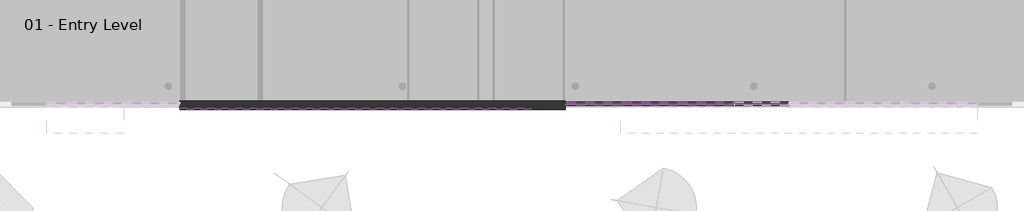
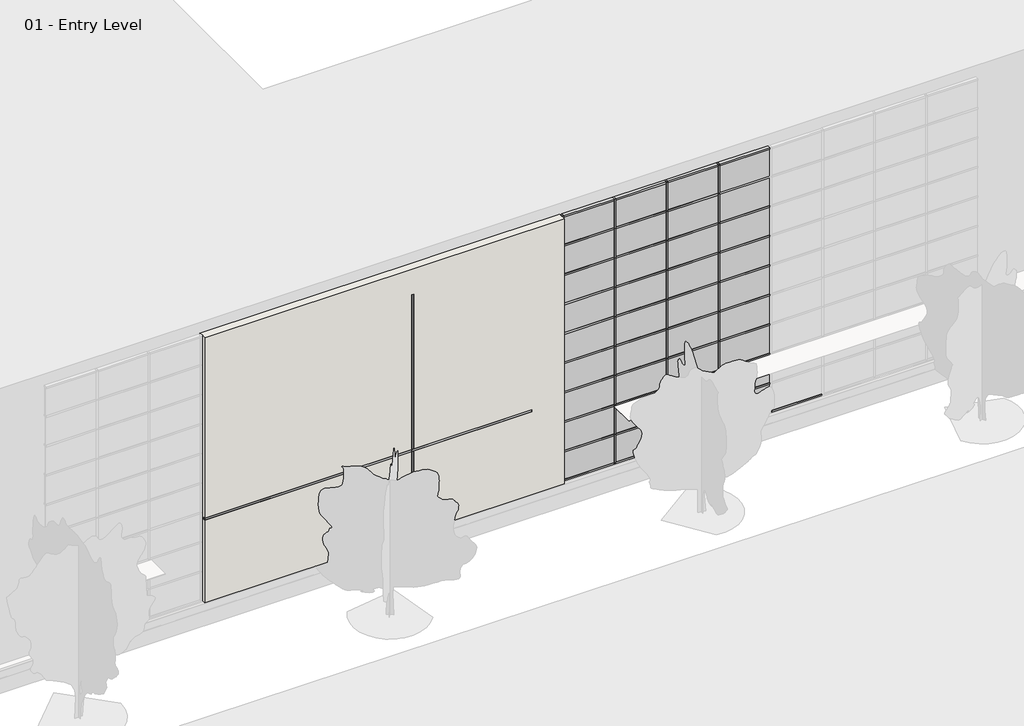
# One storey, part 2 of 35: 85 members, 36 plates, 2 proxies, 1 wall.
"""IFC4 building model written with IfcOpenShell, lengths in millimetres."""

from ifc_helpers import new_model, si_unit, frame, origin, origin_with_axes, place, context, project, spatial, polyline, outline, extrude, faceted_brep, transform, mapped, element, save
from components import member_2b49869a, member_75074519, member_391b434c, member_9e90ae50, system_panel_glazed_1b9d6098, system_panel_glazed_70da479d, system_panel_solid_b376696c, system_panel_solid_77e8b053

model = new_model("IFC4")

# Units and contexts
model_context = context("Model", 3, world=origin())
ifc_project = project(units=[si_unit("LENGTHUNIT", "METRE", prefix="MILLI")], contexts=[model_context])

# Site, building, storey
site = spatial("IfcSite", under=ifc_project)
building = spatial("IfcBuilding", under=site)
storey = spatial("IfcBuildingStorey", under=building, Name="01 - Entry Level", Elevation=0.0)

# Proxies
placement = place(None, origin())
element("IfcBuildingElementProxy", 1, Name="Reveal", ObjectType="Reveal", at=placement, inside=storey, context=model_context, shape_type="SweptSolid", body=[
    extrude(outline(polyline([(16536.3207476, -203.275), (16536.3207476, -254.075), (16460.1207476, -254.075), (16460.1207476, -203.275), (16536.3207476, -203.275)])), origin_with_axes(), (0.0, 0.0, 1.0), 9906.0),
])
element("IfcBuildingElementProxy", 2, Name="Reveal", ObjectType="Reveal", at=placement, inside=storey, context=model_context, shape_type="SweptSolid", body=[
    extrude(outline(polyline([(8357.5207476, -254.075), (8357.5207476, -203.275), (21159.1207476, -203.275), (21159.1207476, -254.075), (8357.5207476, -254.075)])), frame((0.0, 0.0, 3429.0), z_axis=(0.0, 0.0, 1.0), x_axis=(1.0, 0.0, 0.0)), (0.0, 0.0, 1.0), 76.2),
])

# Members
member_shape = member_2b49869a(model_context)
element("IfcMember", 3, ObjectType="Rectangular Mullion : 2.5\" x 5\" rectangular", at=placement, inside=storey, context=model_context, shape_type="MappedRepresentation", body=[
    mapped(member_shape, transform((22467.2207476, -47.7, 9753.6), x_axis=(1.0, 0.0, 0.0), y_axis=(0.0, -1.0, 0.0), z_axis=(0.0, 0.0, -1.0))),
])
element("IfcMember", 4, ObjectType="Rectangular Mullion : 2.5\" x 5\" rectangular", at=placement, inside=storey, context=model_context, shape_type="MappedRepresentation", body=[
    mapped(member_shape, transform((24499.2207476, -47.7, 9753.6), x_axis=(1.0, 0.0, 0.0), y_axis=(0.0, -1.0, 0.0), z_axis=(0.0, 0.0, -1.0))),
])
element("IfcMember", 5, ObjectType="Rectangular Mullion : 2.5\" x 5\" rectangular", at=placement, inside=storey, context=model_context, shape_type="MappedRepresentation", body=[
    mapped(member_shape, transform((26531.2207476, -47.7, 9753.6), x_axis=(1.0, 0.0, 0.0), y_axis=(0.0, -1.0, 0.0), z_axis=(0.0, 0.0, -1.0))),
])
element("IfcMember", 6, ObjectType="Rectangular Mullion : 2.5\" x 5\" rectangular", at=placement, inside=storey, context=model_context, shape_type="MappedRepresentation", body=[
    mapped(member_shape, transform((28563.2207476, -47.7, 9753.6), x_axis=(1.0, 0.0, 0.0), y_axis=(0.0, -1.0, 0.0), z_axis=(0.0, 0.0, -1.0))),
])
member_2_shape = member_75074519(model_context)
element("IfcMember", 7, ObjectType="Rectangular Mullion : 2.5\" x 5\" rectangular", at=placement, inside=storey, context=model_context, shape_type="MappedRepresentation", body=[
    mapped(member_2_shape, transform((22429.1207476, -47.7, 10972.8), x_axis=(-1.0, 0.0, 0.0), y_axis=(0.0, -1.0, 0.0), z_axis=(0.0, 0.0, 1.0))),
])
member_3_shape = member_391b434c(model_context)
element("IfcMember", 8, ObjectType="Rectangular Mullion : 2.5\" x 5\" rectangular", at=placement, inside=storey, context=model_context, shape_type="MappedRepresentation", body=[
    mapped(member_3_shape, transform((24467.4707476, -47.7, 10972.8), x_axis=(0.0, 0.0, 1.0), y_axis=(0.0, -1.0, 0.0), z_axis=(1.0, 0.0, 0.0))),
])
element("IfcMember", 9, ObjectType="Rectangular Mullion : 2.5\" x 5\" rectangular", at=placement, inside=storey, context=model_context, shape_type="MappedRepresentation", body=[
    mapped(member_3_shape, transform((26499.4707476, -47.7, 10972.8), x_axis=(0.0, 0.0, 1.0), y_axis=(0.0, -1.0, 0.0), z_axis=(1.0, 0.0, 0.0))),
])
element("IfcMember", 10, ObjectType="Rectangular Mullion : 2.5\" x 5\" rectangular", at=placement, inside=storey, context=model_context, shape_type="MappedRepresentation", body=[
    mapped(member_3_shape, transform((28531.4707476, -47.7, 10972.8), x_axis=(0.0, 0.0, 1.0), y_axis=(0.0, -1.0, 0.0), z_axis=(1.0, 0.0, 0.0))),
])
element("IfcMember", 11, ObjectType="Rectangular Mullion : 2.5\" x 5\" rectangular", at=placement, inside=storey, context=model_context, shape_type="MappedRepresentation", body=[
    mapped(member_3_shape, transform((30563.4707476, -47.7, 10972.8), x_axis=(0.0, 0.0, 1.0), y_axis=(0.0, -1.0, 0.0), z_axis=(1.0, 0.0, 0.0))),
])
element("IfcMember", 12, ObjectType="Rectangular Mullion : 2.5\" x 5\" rectangular", at=placement, inside=storey, context=model_context, shape_type="MappedRepresentation", body=[
    mapped(member_3_shape, transform((22498.9707476, -47.7, 0.0), x_axis=(0.0, 0.0, -1.0), y_axis=(0.0, -1.0, 0.0), z_axis=(-1.0, 0.0, 0.0))),
])
element("IfcMember", 13, ObjectType="Rectangular Mullion : 2.5\" x 5\" rectangular", at=placement, inside=storey, context=model_context, shape_type="MappedRepresentation", body=[
    mapped(member_3_shape, transform((24530.9707476, -47.7, 0.0), x_axis=(0.0, 0.0, -1.0), y_axis=(0.0, -1.0, 0.0), z_axis=(-1.0, 0.0, 0.0))),
])
element("IfcMember", 14, ObjectType="Rectangular Mullion : 2.5\" x 5\" rectangular", at=placement, inside=storey, context=model_context, shape_type="MappedRepresentation", body=[
    mapped(member_3_shape, transform((26562.9707476, -47.7, 0.0), x_axis=(0.0, 0.0, -1.0), y_axis=(0.0, -1.0, 0.0), z_axis=(-1.0, 0.0, 0.0))),
])
element("IfcMember", 15, ObjectType="Rectangular Mullion : 2.5\" x 5\" rectangular", at=placement, inside=storey, context=model_context, shape_type="MappedRepresentation", body=[
    mapped(member_3_shape, transform((28594.9707476, -47.7, 0.0), x_axis=(0.0, 0.0, -1.0), y_axis=(0.0, -1.0, 0.0), z_axis=(-1.0, 0.0, 0.0))),
])
element("IfcMember", 16, ObjectType="Rectangular Mullion : 2.5\" x 5\" rectangular", at=placement, inside=storey, context=model_context, shape_type="MappedRepresentation", body=[
    mapped(member_3_shape, transform((30626.9707476, -47.7, 0.0), x_axis=(0.0, 0.0, -1.0), y_axis=(0.0, -1.0, 0.0), z_axis=(-1.0, 0.0, 0.0))),
])
member_4_shape = member_9e90ae50(model_context)
element("IfcMember", 17, ObjectType="Rectangular Mullion : 2.5\" x 5\" rectangular", at=placement, inside=storey, context=model_context, shape_type="MappedRepresentation", body=[
    mapped(member_4_shape, transform((24467.4707476, -47.7, 1219.2), x_axis=(0.0, 0.0, 1.0), y_axis=(0.0, -1.0, 0.0), z_axis=(1.0, 0.0, 0.0))),
])
element("IfcMember", 18, ObjectType="Rectangular Mullion : 2.5\" x 5\" rectangular", at=placement, inside=storey, context=model_context, shape_type="MappedRepresentation", body=[
    mapped(member_4_shape, transform((26499.4707476, -47.7, 1219.2), x_axis=(0.0, 0.0, 1.0), y_axis=(0.0, -1.0, 0.0), z_axis=(1.0, 0.0, 0.0))),
])
element("IfcMember", 19, ObjectType="Rectangular Mullion : 2.5\" x 5\" rectangular", at=placement, inside=storey, context=model_context, shape_type="MappedRepresentation", body=[
    mapped(member_4_shape, transform((28531.4707476, -47.7, 1219.2), x_axis=(0.0, 0.0, 1.0), y_axis=(0.0, -1.0, 0.0), z_axis=(1.0, 0.0, 0.0))),
])
element("IfcMember", 20, ObjectType="Rectangular Mullion : 2.5\" x 5\" rectangular", at=placement, inside=storey, context=model_context, shape_type="MappedRepresentation", body=[
    mapped(member_4_shape, transform((30563.4707476, -47.7, 1219.2), x_axis=(0.0, 0.0, 1.0), y_axis=(0.0, -1.0, 0.0), z_axis=(1.0, 0.0, 0.0))),
])
element("IfcMember", 21, ObjectType="Rectangular Mullion : 2.5\" x 5\" rectangular", at=placement, inside=storey, context=model_context, shape_type="MappedRepresentation", body=[
    mapped(member_4_shape, transform((24467.4707476, -47.7, 2438.4), x_axis=(0.0, 0.0, 1.0), y_axis=(0.0, -1.0, 0.0), z_axis=(1.0, 0.0, 0.0))),
])
element("IfcMember", 22, ObjectType="Rectangular Mullion : 2.5\" x 5\" rectangular", at=placement, inside=storey, context=model_context, shape_type="MappedRepresentation", body=[
    mapped(member_4_shape, transform((26499.4707476, -47.7, 2438.4), x_axis=(0.0, 0.0, 1.0), y_axis=(0.0, -1.0, 0.0), z_axis=(1.0, 0.0, 0.0))),
])
element("IfcMember", 23, ObjectType="Rectangular Mullion : 2.5\" x 5\" rectangular", at=placement, inside=storey, context=model_context, shape_type="MappedRepresentation", body=[
    mapped(member_4_shape, transform((28531.4707476, -47.7, 2438.4), x_axis=(0.0, 0.0, 1.0), y_axis=(0.0, -1.0, 0.0), z_axis=(1.0, 0.0, 0.0))),
])
element("IfcMember", 24, ObjectType="Rectangular Mullion : 2.5\" x 5\" rectangular", at=placement, inside=storey, context=model_context, shape_type="MappedRepresentation", body=[
    mapped(member_4_shape, transform((30563.4707476, -47.7, 2438.4), x_axis=(0.0, 0.0, 1.0), y_axis=(0.0, -1.0, 0.0), z_axis=(1.0, 0.0, 0.0))),
])
element("IfcMember", 25, ObjectType="Rectangular Mullion : 2.5\" x 5\" rectangular", at=placement, inside=storey, context=model_context, shape_type="MappedRepresentation", body=[
    mapped(member_4_shape, transform((24467.4707476, -47.7, 3657.6), x_axis=(0.0, 0.0, 1.0), y_axis=(0.0, -1.0, 0.0), z_axis=(1.0, 0.0, 0.0))),
])
element("IfcMember", 26, ObjectType="Rectangular Mullion : 2.5\" x 5\" rectangular", at=placement, inside=storey, context=model_context, shape_type="MappedRepresentation", body=[
    mapped(member_4_shape, transform((26499.4707476, -47.7, 3657.6), x_axis=(0.0, 0.0, 1.0), y_axis=(0.0, -1.0, 0.0), z_axis=(1.0, 0.0, 0.0))),
])
element("IfcMember", 27, ObjectType="Rectangular Mullion : 2.5\" x 5\" rectangular", at=placement, inside=storey, context=model_context, shape_type="MappedRepresentation", body=[
    mapped(member_4_shape, transform((28531.4707476, -47.7, 3657.6), x_axis=(0.0, 0.0, 1.0), y_axis=(0.0, -1.0, 0.0), z_axis=(1.0, 0.0, 0.0))),
])
element("IfcMember", 28, ObjectType="Rectangular Mullion : 2.5\" x 5\" rectangular", at=placement, inside=storey, context=model_context, shape_type="MappedRepresentation", body=[
    mapped(member_4_shape, transform((30563.4707476, -47.7, 3657.6), x_axis=(0.0, 0.0, 1.0), y_axis=(0.0, -1.0, 0.0), z_axis=(1.0, 0.0, 0.0))),
])
element("IfcMember", 29, ObjectType="Rectangular Mullion : 2.5\" x 5\" rectangular", at=placement, inside=storey, context=model_context, shape_type="MappedRepresentation", body=[
    mapped(member_4_shape, transform((24467.4707476, -47.7, 4876.8), x_axis=(0.0, 0.0, 1.0), y_axis=(0.0, -1.0, 0.0), z_axis=(1.0, 0.0, 0.0))),
])
element("IfcMember", 30, ObjectType="Rectangular Mullion : 2.5\" x 5\" rectangular", at=placement, inside=storey, context=model_context, shape_type="MappedRepresentation", body=[
    mapped(member_4_shape, transform((26499.4707476, -47.7, 4876.8), x_axis=(0.0, 0.0, 1.0), y_axis=(0.0, -1.0, 0.0), z_axis=(1.0, 0.0, 0.0))),
])
element("IfcMember", 31, ObjectType="Rectangular Mullion : 2.5\" x 5\" rectangular", at=placement, inside=storey, context=model_context, shape_type="MappedRepresentation", body=[
    mapped(member_4_shape, transform((28531.4707476, -47.7, 4876.8), x_axis=(0.0, 0.0, 1.0), y_axis=(0.0, -1.0, 0.0), z_axis=(1.0, 0.0, 0.0))),
])
element("IfcMember", 32, ObjectType="Rectangular Mullion : 2.5\" x 5\" rectangular", at=placement, inside=storey, context=model_context, shape_type="MappedRepresentation", body=[
    mapped(member_4_shape, transform((30563.4707476, -47.7, 4876.8), x_axis=(0.0, 0.0, 1.0), y_axis=(0.0, -1.0, 0.0), z_axis=(1.0, 0.0, 0.0))),
])
element("IfcMember", 33, ObjectType="Rectangular Mullion : 2.5\" x 5\" rectangular", at=placement, inside=storey, context=model_context, shape_type="MappedRepresentation", body=[
    mapped(member_4_shape, transform((24467.4707476, -47.7, 6096.0), x_axis=(0.0, 0.0, 1.0), y_axis=(0.0, -1.0, 0.0), z_axis=(1.0, 0.0, 0.0))),
])
element("IfcMember", 34, ObjectType="Rectangular Mullion : 2.5\" x 5\" rectangular", at=placement, inside=storey, context=model_context, shape_type="MappedRepresentation", body=[
    mapped(member_4_shape, transform((26499.4707476, -47.7, 6096.0), x_axis=(0.0, 0.0, 1.0), y_axis=(0.0, -1.0, 0.0), z_axis=(1.0, 0.0, 0.0))),
])
element("IfcMember", 35, ObjectType="Rectangular Mullion : 2.5\" x 5\" rectangular", at=placement, inside=storey, context=model_context, shape_type="MappedRepresentation", body=[
    mapped(member_4_shape, transform((28531.4707476, -47.7, 6096.0), x_axis=(0.0, 0.0, 1.0), y_axis=(0.0, -1.0, 0.0), z_axis=(1.0, 0.0, 0.0))),
])
element("IfcMember", 36, ObjectType="Rectangular Mullion : 2.5\" x 5\" rectangular", at=placement, inside=storey, context=model_context, shape_type="MappedRepresentation", body=[
    mapped(member_4_shape, transform((30563.4707476, -47.7, 6096.0), x_axis=(0.0, 0.0, 1.0), y_axis=(0.0, -1.0, 0.0), z_axis=(1.0, 0.0, 0.0))),
])
element("IfcMember", 37, ObjectType="Rectangular Mullion : 2.5\" x 5\" rectangular", at=placement, inside=storey, context=model_context, shape_type="MappedRepresentation", body=[
    mapped(member_4_shape, transform((24467.4707476, -47.7, 7315.2), x_axis=(0.0, 0.0, 1.0), y_axis=(0.0, -1.0, 0.0), z_axis=(1.0, 0.0, 0.0))),
])
element("IfcMember", 38, ObjectType="Rectangular Mullion : 2.5\" x 5\" rectangular", at=placement, inside=storey, context=model_context, shape_type="MappedRepresentation", body=[
    mapped(member_4_shape, transform((26499.4707476, -47.7, 7315.2), x_axis=(0.0, 0.0, 1.0), y_axis=(0.0, -1.0, 0.0), z_axis=(1.0, 0.0, 0.0))),
])
element("IfcMember", 39, ObjectType="Rectangular Mullion : 2.5\" x 5\" rectangular", at=placement, inside=storey, context=model_context, shape_type="MappedRepresentation", body=[
    mapped(member_4_shape, transform((28531.4707476, -47.7, 7315.2), x_axis=(0.0, 0.0, 1.0), y_axis=(0.0, -1.0, 0.0), z_axis=(1.0, 0.0, 0.0))),
])
element("IfcMember", 40, ObjectType="Rectangular Mullion : 2.5\" x 5\" rectangular", at=placement, inside=storey, context=model_context, shape_type="MappedRepresentation", body=[
    mapped(member_4_shape, transform((30563.4707476, -47.7, 7315.2), x_axis=(0.0, 0.0, 1.0), y_axis=(0.0, -1.0, 0.0), z_axis=(1.0, 0.0, 0.0))),
])
element("IfcMember", 41, ObjectType="Rectangular Mullion : 2.5\" x 5\" rectangular", at=placement, inside=storey, context=model_context, shape_type="MappedRepresentation", body=[
    mapped(member_4_shape, transform((24467.4707476, -47.7, 8534.4), x_axis=(0.0, 0.0, 1.0), y_axis=(0.0, -1.0, 0.0), z_axis=(1.0, 0.0, 0.0))),
])
element("IfcMember", 42, ObjectType="Rectangular Mullion : 2.5\" x 5\" rectangular", at=placement, inside=storey, context=model_context, shape_type="MappedRepresentation", body=[
    mapped(member_4_shape, transform((26499.4707476, -47.7, 8534.4), x_axis=(0.0, 0.0, 1.0), y_axis=(0.0, -1.0, 0.0), z_axis=(1.0, 0.0, 0.0))),
])
element("IfcMember", 43, ObjectType="Rectangular Mullion : 2.5\" x 5\" rectangular", at=placement, inside=storey, context=model_context, shape_type="MappedRepresentation", body=[
    mapped(member_4_shape, transform((28531.4707476, -47.7, 8534.4), x_axis=(0.0, 0.0, 1.0), y_axis=(0.0, -1.0, 0.0), z_axis=(1.0, 0.0, 0.0))),
])
element("IfcMember", 44, ObjectType="Rectangular Mullion : 2.5\" x 5\" rectangular", at=placement, inside=storey, context=model_context, shape_type="MappedRepresentation", body=[
    mapped(member_4_shape, transform((30563.4707476, -47.7, 8534.4), x_axis=(0.0, 0.0, 1.0), y_axis=(0.0, -1.0, 0.0), z_axis=(1.0, 0.0, 0.0))),
])
element("IfcMember", 45, ObjectType="Rectangular Mullion : 2.5\" x 5\" rectangular", at=placement, inside=storey, context=model_context, shape_type="MappedRepresentation", body=[
    mapped(member_4_shape, transform((24467.4707476, -47.7, 9753.6), x_axis=(0.0, 0.0, 1.0), y_axis=(0.0, -1.0, 0.0), z_axis=(1.0, 0.0, 0.0))),
])
element("IfcMember", 46, ObjectType="Rectangular Mullion : 2.5\" x 5\" rectangular", at=placement, inside=storey, context=model_context, shape_type="MappedRepresentation", body=[
    mapped(member_4_shape, transform((26499.4707476, -47.7, 9753.6), x_axis=(0.0, 0.0, 1.0), y_axis=(0.0, -1.0, 0.0), z_axis=(1.0, 0.0, 0.0))),
])
element("IfcMember", 47, ObjectType="Rectangular Mullion : 2.5\" x 5\" rectangular", at=placement, inside=storey, context=model_context, shape_type="MappedRepresentation", body=[
    mapped(member_4_shape, transform((28531.4707476, -47.7, 9753.6), x_axis=(0.0, 0.0, 1.0), y_axis=(0.0, -1.0, 0.0), z_axis=(1.0, 0.0, 0.0))),
])
element("IfcMember", 48, ObjectType="Rectangular Mullion : 2.5\" x 5\" rectangular", at=placement, inside=storey, context=model_context, shape_type="MappedRepresentation", body=[
    mapped(member_shape, transform((22467.2207476, -47.7, 0.0), x_axis=(1.0, 0.0, 0.0), y_axis=(0.0, -1.0, 0.0), z_axis=(0.0, 0.0, -1.0))),
])
element("IfcMember", 49, ObjectType="Rectangular Mullion : 2.5\" x 5\" rectangular", at=placement, inside=storey, context=model_context, shape_type="MappedRepresentation", body=[
    mapped(member_shape, transform((24499.2207476, -47.7, 0.0), x_axis=(1.0, 0.0, 0.0), y_axis=(0.0, -1.0, 0.0), z_axis=(0.0, 0.0, -1.0))),
])
element("IfcMember", 50, ObjectType="Rectangular Mullion : 2.5\" x 5\" rectangular", at=placement, inside=storey, context=model_context, shape_type="MappedRepresentation", body=[
    mapped(member_shape, transform((26531.2207476, -47.7, 0.0), x_axis=(1.0, 0.0, 0.0), y_axis=(0.0, -1.0, 0.0), z_axis=(0.0, 0.0, -1.0))),
])
element("IfcMember", 51, ObjectType="Rectangular Mullion : 2.5\" x 5\" rectangular", at=placement, inside=storey, context=model_context, shape_type="MappedRepresentation", body=[
    mapped(member_shape, transform((28563.2207476, -47.7, 0.0), x_axis=(1.0, 0.0, 0.0), y_axis=(0.0, -1.0, 0.0), z_axis=(0.0, 0.0, -1.0))),
])
element("IfcMember", 52, ObjectType="Rectangular Mullion : 2.5\" x 5\" rectangular", at=placement, inside=storey, context=model_context, shape_type="MappedRepresentation", body=[
    mapped(member_shape, transform((22467.2207476, -47.7, 1219.2), x_axis=(1.0, 0.0, 0.0), y_axis=(0.0, -1.0, 0.0), z_axis=(0.0, 0.0, -1.0))),
])
element("IfcMember", 53, ObjectType="Rectangular Mullion : 2.5\" x 5\" rectangular", at=placement, inside=storey, context=model_context, shape_type="MappedRepresentation", body=[
    mapped(member_shape, transform((24499.2207476, -47.7, 1219.2), x_axis=(1.0, 0.0, 0.0), y_axis=(0.0, -1.0, 0.0), z_axis=(0.0, 0.0, -1.0))),
])
element("IfcMember", 54, ObjectType="Rectangular Mullion : 2.5\" x 5\" rectangular", at=placement, inside=storey, context=model_context, shape_type="MappedRepresentation", body=[
    mapped(member_shape, transform((26531.2207476, -47.7, 1219.2), x_axis=(1.0, 0.0, 0.0), y_axis=(0.0, -1.0, 0.0), z_axis=(0.0, 0.0, -1.0))),
])
element("IfcMember", 55, ObjectType="Rectangular Mullion : 2.5\" x 5\" rectangular", at=placement, inside=storey, context=model_context, shape_type="MappedRepresentation", body=[
    mapped(member_shape, transform((28563.2207476, -47.7, 1219.2), x_axis=(1.0, 0.0, 0.0), y_axis=(0.0, -1.0, 0.0), z_axis=(0.0, 0.0, -1.0))),
])
element("IfcMember", 56, ObjectType="Rectangular Mullion : 2.5\" x 5\" rectangular", at=placement, inside=storey, context=model_context, shape_type="MappedRepresentation", body=[
    mapped(member_shape, transform((22467.2207476, -47.7, 2438.4), x_axis=(1.0, 0.0, 0.0), y_axis=(0.0, -1.0, 0.0), z_axis=(0.0, 0.0, -1.0))),
])
element("IfcMember", 57, ObjectType="Rectangular Mullion : 2.5\" x 5\" rectangular", at=placement, inside=storey, context=model_context, shape_type="MappedRepresentation", body=[
    mapped(member_shape, transform((24499.2207476, -47.7, 2438.4), x_axis=(1.0, 0.0, 0.0), y_axis=(0.0, -1.0, 0.0), z_axis=(0.0, 0.0, -1.0))),
])
element("IfcMember", 58, ObjectType="Rectangular Mullion : 2.5\" x 5\" rectangular", at=placement, inside=storey, context=model_context, shape_type="MappedRepresentation", body=[
    mapped(member_shape, transform((26531.2207476, -47.7, 2438.4), x_axis=(1.0, 0.0, 0.0), y_axis=(0.0, -1.0, 0.0), z_axis=(0.0, 0.0, -1.0))),
])
element("IfcMember", 59, ObjectType="Rectangular Mullion : 2.5\" x 5\" rectangular", at=placement, inside=storey, context=model_context, shape_type="MappedRepresentation", body=[
    mapped(member_shape, transform((28563.2207476, -47.7, 2438.4), x_axis=(1.0, 0.0, 0.0), y_axis=(0.0, -1.0, 0.0), z_axis=(0.0, 0.0, -1.0))),
])
element("IfcMember", 60, ObjectType="Rectangular Mullion : 2.5\" x 5\" rectangular", at=placement, inside=storey, context=model_context, shape_type="MappedRepresentation", body=[
    mapped(member_shape, transform((22467.2207476, -47.7, 3657.6), x_axis=(1.0, 0.0, 0.0), y_axis=(0.0, -1.0, 0.0), z_axis=(0.0, 0.0, -1.0))),
])
element("IfcMember", 61, ObjectType="Rectangular Mullion : 2.5\" x 5\" rectangular", at=placement, inside=storey, context=model_context, shape_type="MappedRepresentation", body=[
    mapped(member_shape, transform((24499.2207476, -47.7, 3657.6), x_axis=(1.0, 0.0, 0.0), y_axis=(0.0, -1.0, 0.0), z_axis=(0.0, 0.0, -1.0))),
])
element("IfcMember", 62, ObjectType="Rectangular Mullion : 2.5\" x 5\" rectangular", at=placement, inside=storey, context=model_context, shape_type="MappedRepresentation", body=[
    mapped(member_shape, transform((26531.2207476, -47.7, 3657.6), x_axis=(1.0, 0.0, 0.0), y_axis=(0.0, -1.0, 0.0), z_axis=(0.0, 0.0, -1.0))),
])
element("IfcMember", 63, ObjectType="Rectangular Mullion : 2.5\" x 5\" rectangular", at=placement, inside=storey, context=model_context, shape_type="MappedRepresentation", body=[
    mapped(member_shape, transform((28563.2207476, -47.7, 3657.6), x_axis=(1.0, 0.0, 0.0), y_axis=(0.0, -1.0, 0.0), z_axis=(0.0, 0.0, -1.0))),
])
element("IfcMember", 64, ObjectType="Rectangular Mullion : 2.5\" x 5\" rectangular", at=placement, inside=storey, context=model_context, shape_type="MappedRepresentation", body=[
    mapped(member_shape, transform((22467.2207476, -47.7, 4876.8), x_axis=(1.0, 0.0, 0.0), y_axis=(0.0, -1.0, 0.0), z_axis=(0.0, 0.0, -1.0))),
])
element("IfcMember", 65, ObjectType="Rectangular Mullion : 2.5\" x 5\" rectangular", at=placement, inside=storey, context=model_context, shape_type="MappedRepresentation", body=[
    mapped(member_shape, transform((24499.2207476, -47.7, 4876.8), x_axis=(1.0, 0.0, 0.0), y_axis=(0.0, -1.0, 0.0), z_axis=(0.0, 0.0, -1.0))),
])
element("IfcMember", 66, ObjectType="Rectangular Mullion : 2.5\" x 5\" rectangular", at=placement, inside=storey, context=model_context, shape_type="MappedRepresentation", body=[
    mapped(member_shape, transform((26531.2207476, -47.7, 4876.8), x_axis=(1.0, 0.0, 0.0), y_axis=(0.0, -1.0, 0.0), z_axis=(0.0, 0.0, -1.0))),
])
element("IfcMember", 67, ObjectType="Rectangular Mullion : 2.5\" x 5\" rectangular", at=placement, inside=storey, context=model_context, shape_type="MappedRepresentation", body=[
    mapped(member_shape, transform((28563.2207476, -47.7, 4876.8), x_axis=(1.0, 0.0, 0.0), y_axis=(0.0, -1.0, 0.0), z_axis=(0.0, 0.0, -1.0))),
])
element("IfcMember", 68, ObjectType="Rectangular Mullion : 2.5\" x 5\" rectangular", at=placement, inside=storey, context=model_context, shape_type="MappedRepresentation", body=[
    mapped(member_shape, transform((22467.2207476, -47.7, 6096.0), x_axis=(1.0, 0.0, 0.0), y_axis=(0.0, -1.0, 0.0), z_axis=(0.0, 0.0, -1.0))),
])
element("IfcMember", 69, ObjectType="Rectangular Mullion : 2.5\" x 5\" rectangular", at=placement, inside=storey, context=model_context, shape_type="MappedRepresentation", body=[
    mapped(member_shape, transform((24499.2207476, -47.7, 6096.0), x_axis=(1.0, 0.0, 0.0), y_axis=(0.0, -1.0, 0.0), z_axis=(0.0, 0.0, -1.0))),
])
element("IfcMember", 70, ObjectType="Rectangular Mullion : 2.5\" x 5\" rectangular", at=placement, inside=storey, context=model_context, shape_type="MappedRepresentation", body=[
    mapped(member_shape, transform((26531.2207476, -47.7, 6096.0), x_axis=(1.0, 0.0, 0.0), y_axis=(0.0, -1.0, 0.0), z_axis=(0.0, 0.0, -1.0))),
])
element("IfcMember", 71, ObjectType="Rectangular Mullion : 2.5\" x 5\" rectangular", at=placement, inside=storey, context=model_context, shape_type="MappedRepresentation", body=[
    mapped(member_shape, transform((28563.2207476, -47.7, 6096.0), x_axis=(1.0, 0.0, 0.0), y_axis=(0.0, -1.0, 0.0), z_axis=(0.0, 0.0, -1.0))),
])
element("IfcMember", 72, ObjectType="Rectangular Mullion : 2.5\" x 5\" rectangular", at=placement, inside=storey, context=model_context, shape_type="MappedRepresentation", body=[
    mapped(member_shape, transform((22467.2207476, -47.7, 7315.2), x_axis=(1.0, 0.0, 0.0), y_axis=(0.0, -1.0, 0.0), z_axis=(0.0, 0.0, -1.0))),
])
element("IfcMember", 73, ObjectType="Rectangular Mullion : 2.5\" x 5\" rectangular", at=placement, inside=storey, context=model_context, shape_type="MappedRepresentation", body=[
    mapped(member_shape, transform((24499.2207476, -47.7, 7315.2), x_axis=(1.0, 0.0, 0.0), y_axis=(0.0, -1.0, 0.0), z_axis=(0.0, 0.0, -1.0))),
])
element("IfcMember", 74, ObjectType="Rectangular Mullion : 2.5\" x 5\" rectangular", at=placement, inside=storey, context=model_context, shape_type="MappedRepresentation", body=[
    mapped(member_shape, transform((26531.2207476, -47.7, 7315.2), x_axis=(1.0, 0.0, 0.0), y_axis=(0.0, -1.0, 0.0), z_axis=(0.0, 0.0, -1.0))),
])
element("IfcMember", 75, ObjectType="Rectangular Mullion : 2.5\" x 5\" rectangular", at=placement, inside=storey, context=model_context, shape_type="MappedRepresentation", body=[
    mapped(member_shape, transform((28563.2207476, -47.7, 7315.2), x_axis=(1.0, 0.0, 0.0), y_axis=(0.0, -1.0, 0.0), z_axis=(0.0, 0.0, -1.0))),
])
element("IfcMember", 76, ObjectType="Rectangular Mullion : 2.5\" x 5\" rectangular", at=placement, inside=storey, context=model_context, shape_type="MappedRepresentation", body=[
    mapped(member_shape, transform((22467.2207476, -47.7, 8534.4), x_axis=(1.0, 0.0, 0.0), y_axis=(0.0, -1.0, 0.0), z_axis=(0.0, 0.0, -1.0))),
])
element("IfcMember", 77, ObjectType="Rectangular Mullion : 2.5\" x 5\" rectangular", at=placement, inside=storey, context=model_context, shape_type="MappedRepresentation", body=[
    mapped(member_shape, transform((24499.2207476, -47.7, 8534.4), x_axis=(1.0, 0.0, 0.0), y_axis=(0.0, -1.0, 0.0), z_axis=(0.0, 0.0, -1.0))),
])
element("IfcMember", 78, ObjectType="Rectangular Mullion : 2.5\" x 5\" rectangular", at=placement, inside=storey, context=model_context, shape_type="MappedRepresentation", body=[
    mapped(member_shape, transform((26531.2207476, -47.7, 8534.4), x_axis=(1.0, 0.0, 0.0), y_axis=(0.0, -1.0, 0.0), z_axis=(0.0, 0.0, -1.0))),
])
element("IfcMember", 79, ObjectType="Rectangular Mullion : 2.5\" x 5\" rectangular", at=placement, inside=storey, context=model_context, shape_type="MappedRepresentation", body=[
    mapped(member_shape, transform((28563.2207476, -47.7, 8534.4), x_axis=(1.0, 0.0, 0.0), y_axis=(0.0, -1.0, 0.0), z_axis=(0.0, 0.0, -1.0))),
])
element("IfcMember", 80, ObjectType="Rectangular Mullion : 2.5\" x 5\" rectangular", at=placement, inside=storey, context=model_context, shape_type="MappedRepresentation", body=[
    mapped(member_2_shape, transform((22429.1207476, -47.7, 1219.2), x_axis=(-1.0, 0.0, 0.0), y_axis=(0.0, -1.0, 0.0), z_axis=(0.0, 0.0, 1.0))),
])
element("IfcMember", 81, ObjectType="Rectangular Mullion : 2.5\" x 5\" rectangular", at=placement, inside=storey, context=model_context, shape_type="MappedRepresentation", body=[
    mapped(member_2_shape, transform((22429.1207476, -47.7, 2438.4), x_axis=(-1.0, 0.0, 0.0), y_axis=(0.0, -1.0, 0.0), z_axis=(0.0, 0.0, 1.0))),
])
element("IfcMember", 82, ObjectType="Rectangular Mullion : 2.5\" x 5\" rectangular", at=placement, inside=storey, context=model_context, shape_type="MappedRepresentation", body=[
    mapped(member_2_shape, transform((22429.1207476, -47.7, 3657.6), x_axis=(-1.0, 0.0, 0.0), y_axis=(0.0, -1.0, 0.0), z_axis=(0.0, 0.0, 1.0))),
])
element("IfcMember", 83, ObjectType="Rectangular Mullion : 2.5\" x 5\" rectangular", at=placement, inside=storey, context=model_context, shape_type="MappedRepresentation", body=[
    mapped(member_2_shape, transform((22429.1207476, -47.7, 4876.8), x_axis=(-1.0, 0.0, 0.0), y_axis=(0.0, -1.0, 0.0), z_axis=(0.0, 0.0, 1.0))),
])
element("IfcMember", 84, ObjectType="Rectangular Mullion : 2.5\" x 5\" rectangular", at=placement, inside=storey, context=model_context, shape_type="MappedRepresentation", body=[
    mapped(member_2_shape, transform((22429.1207476, -47.7, 6096.0), x_axis=(-1.0, 0.0, 0.0), y_axis=(0.0, -1.0, 0.0), z_axis=(0.0, 0.0, 1.0))),
])
element("IfcMember", 85, ObjectType="Rectangular Mullion : 2.5\" x 5\" rectangular", at=placement, inside=storey, context=model_context, shape_type="MappedRepresentation", body=[
    mapped(member_2_shape, transform((22429.1207476, -47.7, 7315.2), x_axis=(-1.0, 0.0, 0.0), y_axis=(0.0, -1.0, 0.0), z_axis=(0.0, 0.0, 1.0))),
])
element("IfcMember", 86, ObjectType="Rectangular Mullion : 2.5\" x 5\" rectangular", at=placement, inside=storey, context=model_context, shape_type="MappedRepresentation", body=[
    mapped(member_2_shape, transform((22429.1207476, -47.7, 8534.4), x_axis=(-1.0, 0.0, 0.0), y_axis=(0.0, -1.0, 0.0), z_axis=(0.0, 0.0, 1.0))),
])
element("IfcMember", 87, ObjectType="Rectangular Mullion : 2.5\" x 5\" rectangular", at=placement, inside=storey, context=model_context, shape_type="MappedRepresentation", body=[
    mapped(member_2_shape, transform((22429.1207476, -47.7, 9753.6), x_axis=(-1.0, 0.0, 0.0), y_axis=(0.0, -1.0, 0.0), z_axis=(0.0, 0.0, 1.0))),
])

# Plates
system_panel_glazed_shape = system_panel_glazed_1b9d6098(model_context)
element("IfcPlate", 88, ObjectType="System Panel : Glazed", at=placement, inside=storey, context=model_context, shape_type="MappedRepresentation", body=[
    mapped(system_panel_glazed_shape, transform((23483.2207476, -47.7, 63.5), x_axis=(1.0, 0.0, 0.0), y_axis=(0.0, 1.0, 0.0), z_axis=(0.0, 0.0, 1.0))),
])
element("IfcPlate", 89, ObjectType="System Panel : Glazed", at=placement, inside=storey, context=model_context, shape_type="MappedRepresentation", body=[
    mapped(system_panel_glazed_shape, transform((25515.2207476, -47.7, 63.5), x_axis=(1.0, 0.0, 0.0), y_axis=(0.0, 1.0, 0.0), z_axis=(0.0, 0.0, 1.0))),
])
element("IfcPlate", 90, ObjectType="System Panel : Glazed", at=placement, inside=storey, context=model_context, shape_type="MappedRepresentation", body=[
    mapped(system_panel_glazed_shape, transform((27547.2207476, -47.7, 63.5), x_axis=(1.0, 0.0, 0.0), y_axis=(0.0, 1.0, 0.0), z_axis=(0.0, 0.0, 1.0))),
])
element("IfcPlate", 91, ObjectType="System Panel : Glazed", at=placement, inside=storey, context=model_context, shape_type="MappedRepresentation", body=[
    mapped(system_panel_glazed_shape, transform((29579.2207476, -47.7, 63.5), x_axis=(1.0, 0.0, 0.0), y_axis=(0.0, 1.0, 0.0), z_axis=(0.0, 0.0, 1.0))),
])
system_panel_glazed_2_shape = system_panel_glazed_70da479d(model_context)
element("IfcPlate", 92, ObjectType="System Panel : Glazed", at=placement, inside=storey, context=model_context, shape_type="MappedRepresentation", body=[
    mapped(system_panel_glazed_2_shape, transform((23483.2207476, -47.7, 1250.95), x_axis=(1.0, 0.0, 0.0), y_axis=(0.0, 1.0, 0.0), z_axis=(0.0, 0.0, 1.0))),
])
element("IfcPlate", 93, ObjectType="System Panel : Glazed", at=placement, inside=storey, context=model_context, shape_type="MappedRepresentation", body=[
    mapped(system_panel_glazed_2_shape, transform((25515.2207476, -47.7, 1250.95), x_axis=(1.0, 0.0, 0.0), y_axis=(0.0, 1.0, 0.0), z_axis=(0.0, 0.0, 1.0))),
])
element("IfcPlate", 94, ObjectType="System Panel : Glazed", at=placement, inside=storey, context=model_context, shape_type="MappedRepresentation", body=[
    mapped(system_panel_glazed_2_shape, transform((27547.2207476, -47.7, 1250.95), x_axis=(1.0, 0.0, 0.0), y_axis=(0.0, 1.0, 0.0), z_axis=(0.0, 0.0, 1.0))),
])
element("IfcPlate", 95, ObjectType="System Panel : Glazed", at=placement, inside=storey, context=model_context, shape_type="MappedRepresentation", body=[
    mapped(system_panel_glazed_2_shape, transform((29579.2207476, -47.7, 1250.95), x_axis=(1.0, 0.0, 0.0), y_axis=(0.0, 1.0, 0.0), z_axis=(0.0, 0.0, 1.0))),
])
element("IfcPlate", 96, ObjectType="System Panel : Glazed", at=placement, inside=storey, context=model_context, shape_type="MappedRepresentation", body=[
    mapped(system_panel_glazed_2_shape, transform((23483.2207476, -47.7, 3689.35), x_axis=(1.0, 0.0, 0.0), y_axis=(0.0, 1.0, 0.0), z_axis=(0.0, 0.0, 1.0))),
])
element("IfcPlate", 97, ObjectType="System Panel : Glazed", at=placement, inside=storey, context=model_context, shape_type="MappedRepresentation", body=[
    mapped(system_panel_glazed_2_shape, transform((25515.2207476, -47.7, 3689.35), x_axis=(1.0, 0.0, 0.0), y_axis=(0.0, 1.0, 0.0), z_axis=(0.0, 0.0, 1.0))),
])
element("IfcPlate", 98, ObjectType="System Panel : Glazed", at=placement, inside=storey, context=model_context, shape_type="MappedRepresentation", body=[
    mapped(system_panel_glazed_2_shape, transform((27547.2207476, -47.7, 3689.35), x_axis=(1.0, 0.0, 0.0), y_axis=(0.0, 1.0, 0.0), z_axis=(0.0, 0.0, 1.0))),
])
element("IfcPlate", 99, ObjectType="System Panel : Glazed", at=placement, inside=storey, context=model_context, shape_type="MappedRepresentation", body=[
    mapped(system_panel_glazed_2_shape, transform((29579.2207476, -47.7, 3689.35), x_axis=(1.0, 0.0, 0.0), y_axis=(0.0, 1.0, 0.0), z_axis=(0.0, 0.0, 1.0))),
])
element("IfcPlate", 100, ObjectType="System Panel : Glazed", at=placement, inside=storey, context=model_context, shape_type="MappedRepresentation", body=[
    mapped(system_panel_glazed_2_shape, transform((23483.2207476, -47.7, 4908.55), x_axis=(1.0, 0.0, 0.0), y_axis=(0.0, 1.0, 0.0), z_axis=(0.0, 0.0, 1.0))),
])
element("IfcPlate", 101, ObjectType="System Panel : Glazed", at=placement, inside=storey, context=model_context, shape_type="MappedRepresentation", body=[
    mapped(system_panel_glazed_2_shape, transform((25515.2207476, -47.7, 4908.55), x_axis=(1.0, 0.0, 0.0), y_axis=(0.0, 1.0, 0.0), z_axis=(0.0, 0.0, 1.0))),
])
element("IfcPlate", 102, ObjectType="System Panel : Glazed", at=placement, inside=storey, context=model_context, shape_type="MappedRepresentation", body=[
    mapped(system_panel_glazed_2_shape, transform((27547.2207476, -47.7, 4908.55), x_axis=(1.0, 0.0, 0.0), y_axis=(0.0, 1.0, 0.0), z_axis=(0.0, 0.0, 1.0))),
])
element("IfcPlate", 103, ObjectType="System Panel : Glazed", at=placement, inside=storey, context=model_context, shape_type="MappedRepresentation", body=[
    mapped(system_panel_glazed_2_shape, transform((29579.2207476, -47.7, 4908.55), x_axis=(1.0, 0.0, 0.0), y_axis=(0.0, 1.0, 0.0), z_axis=(0.0, 0.0, 1.0))),
])
element("IfcPlate", 104, ObjectType="System Panel : Glazed", at=placement, inside=storey, context=model_context, shape_type="MappedRepresentation", body=[
    mapped(system_panel_glazed_2_shape, transform((23483.2207476, -47.7, 7346.95), x_axis=(1.0, 0.0, 0.0), y_axis=(0.0, 1.0, 0.0), z_axis=(0.0, 0.0, 1.0))),
])
element("IfcPlate", 105, ObjectType="System Panel : Glazed", at=placement, inside=storey, context=model_context, shape_type="MappedRepresentation", body=[
    mapped(system_panel_glazed_2_shape, transform((25515.2207476, -47.7, 7346.95), x_axis=(1.0, 0.0, 0.0), y_axis=(0.0, 1.0, 0.0), z_axis=(0.0, 0.0, 1.0))),
])
element("IfcPlate", 106, ObjectType="System Panel : Glazed", at=placement, inside=storey, context=model_context, shape_type="MappedRepresentation", body=[
    mapped(system_panel_glazed_2_shape, transform((27547.2207476, -47.7, 7346.95), x_axis=(1.0, 0.0, 0.0), y_axis=(0.0, 1.0, 0.0), z_axis=(0.0, 0.0, 1.0))),
])
element("IfcPlate", 107, ObjectType="System Panel : Glazed", at=placement, inside=storey, context=model_context, shape_type="MappedRepresentation", body=[
    mapped(system_panel_glazed_2_shape, transform((29579.2207476, -47.7, 7346.95), x_axis=(1.0, 0.0, 0.0), y_axis=(0.0, 1.0, 0.0), z_axis=(0.0, 0.0, 1.0))),
])
element("IfcPlate", 108, ObjectType="System Panel : Glazed", at=placement, inside=storey, context=model_context, shape_type="MappedRepresentation", body=[
    mapped(system_panel_glazed_2_shape, transform((23483.2207476, -47.7, 8566.15), x_axis=(1.0, 0.0, 0.0), y_axis=(0.0, 1.0, 0.0), z_axis=(0.0, 0.0, 1.0))),
])
element("IfcPlate", 109, ObjectType="System Panel : Glazed", at=placement, inside=storey, context=model_context, shape_type="MappedRepresentation", body=[
    mapped(system_panel_glazed_2_shape, transform((25515.2207476, -47.7, 8566.15), x_axis=(1.0, 0.0, 0.0), y_axis=(0.0, 1.0, 0.0), z_axis=(0.0, 0.0, 1.0))),
])
element("IfcPlate", 110, ObjectType="System Panel : Glazed", at=placement, inside=storey, context=model_context, shape_type="MappedRepresentation", body=[
    mapped(system_panel_glazed_2_shape, transform((27547.2207476, -47.7, 8566.15), x_axis=(1.0, 0.0, 0.0), y_axis=(0.0, 1.0, 0.0), z_axis=(0.0, 0.0, 1.0))),
])
element("IfcPlate", 111, ObjectType="System Panel : Glazed", at=placement, inside=storey, context=model_context, shape_type="MappedRepresentation", body=[
    mapped(system_panel_glazed_2_shape, transform((29579.2207476, -47.7, 8566.15), x_axis=(1.0, 0.0, 0.0), y_axis=(0.0, 1.0, 0.0), z_axis=(0.0, 0.0, 1.0))),
])
system_panel_solid_shape = system_panel_solid_b376696c(model_context)
element("IfcPlate", 112, ObjectType="System Panel : Solid", at=placement, inside=storey, context=model_context, shape_type="MappedRepresentation", body=[
    mapped(system_panel_solid_shape, transform((23483.2207476, -47.7, 9785.35), x_axis=(1.0, 0.0, 0.0), y_axis=(0.0, 1.0, 0.0), z_axis=(0.0, 0.0, 1.0))),
])
element("IfcPlate", 113, ObjectType="System Panel : Solid", at=placement, inside=storey, context=model_context, shape_type="MappedRepresentation", body=[
    mapped(system_panel_solid_shape, transform((25515.2207476, -47.7, 9785.35), x_axis=(1.0, 0.0, 0.0), y_axis=(0.0, 1.0, 0.0), z_axis=(0.0, 0.0, 1.0))),
])
element("IfcPlate", 114, ObjectType="System Panel : Solid", at=placement, inside=storey, context=model_context, shape_type="MappedRepresentation", body=[
    mapped(system_panel_solid_shape, transform((27547.2207476, -47.7, 9785.35), x_axis=(1.0, 0.0, 0.0), y_axis=(0.0, 1.0, 0.0), z_axis=(0.0, 0.0, 1.0))),
])
element("IfcPlate", 115, ObjectType="System Panel : Solid", at=placement, inside=storey, context=model_context, shape_type="MappedRepresentation", body=[
    mapped(system_panel_solid_shape, transform((29579.2207476, -47.7, 9785.35), x_axis=(1.0, 0.0, 0.0), y_axis=(0.0, 1.0, 0.0), z_axis=(0.0, 0.0, 1.0))),
])
system_panel_solid_2_shape = system_panel_solid_77e8b053(model_context)
element("IfcPlate", 116, ObjectType="System Panel : Solid", at=placement, inside=storey, context=model_context, shape_type="MappedRepresentation", body=[
    mapped(system_panel_solid_2_shape, transform((23483.2207476, -47.7, 2470.15), x_axis=(1.0, 0.0, 0.0), y_axis=(0.0, 1.0, 0.0), z_axis=(0.0, 0.0, 1.0))),
])
element("IfcPlate", 117, ObjectType="System Panel : Solid", at=placement, inside=storey, context=model_context, shape_type="MappedRepresentation", body=[
    mapped(system_panel_solid_2_shape, transform((25515.2207476, -47.7, 2470.15), x_axis=(1.0, 0.0, 0.0), y_axis=(0.0, 1.0, 0.0), z_axis=(0.0, 0.0, 1.0))),
])
element("IfcPlate", 118, ObjectType="System Panel : Solid", at=placement, inside=storey, context=model_context, shape_type="MappedRepresentation", body=[
    mapped(system_panel_solid_2_shape, transform((27547.2207476, -47.7, 2470.15), x_axis=(1.0, 0.0, 0.0), y_axis=(0.0, 1.0, 0.0), z_axis=(0.0, 0.0, 1.0))),
])
element("IfcPlate", 119, ObjectType="System Panel : Solid", at=placement, inside=storey, context=model_context, shape_type="MappedRepresentation", body=[
    mapped(system_panel_solid_2_shape, transform((29579.2207476, -47.7, 2470.15), x_axis=(1.0, 0.0, 0.0), y_axis=(0.0, 1.0, 0.0), z_axis=(0.0, 0.0, 1.0))),
])
element("IfcPlate", 120, ObjectType="System Panel : Solid", at=placement, inside=storey, context=model_context, shape_type="MappedRepresentation", body=[
    mapped(system_panel_solid_2_shape, transform((23483.2207476, -47.7, 6127.75), x_axis=(1.0, 0.0, 0.0), y_axis=(0.0, 1.0, 0.0), z_axis=(0.0, 0.0, 1.0))),
])
element("IfcPlate", 121, ObjectType="System Panel : Solid", at=placement, inside=storey, context=model_context, shape_type="MappedRepresentation", body=[
    mapped(system_panel_solid_2_shape, transform((25515.2207476, -47.7, 6127.75), x_axis=(1.0, 0.0, 0.0), y_axis=(0.0, 1.0, 0.0), z_axis=(0.0, 0.0, 1.0))),
])
element("IfcPlate", 122, ObjectType="System Panel : Solid", at=placement, inside=storey, context=model_context, shape_type="MappedRepresentation", body=[
    mapped(system_panel_solid_2_shape, transform((27547.2207476, -47.7, 6127.75), x_axis=(1.0, 0.0, 0.0), y_axis=(0.0, 1.0, 0.0), z_axis=(0.0, 0.0, 1.0))),
])
element("IfcPlate", 123, ObjectType="System Panel : Solid", at=placement, inside=storey, context=model_context, shape_type="MappedRepresentation", body=[
    mapped(system_panel_solid_2_shape, transform((29579.2207476, -47.7, 6127.75), x_axis=(1.0, 0.0, 0.0), y_axis=(0.0, 1.0, 0.0), z_axis=(0.0, 0.0, 1.0))),
])

# Wall
element("IfcWall", 124, ObjectType="Exterior - EIFS on CMU", at=placement, inside=storey, context=model_context, shape_type="Brep", body=[
    faceted_brep([(22422.7707476, -254.075, 10972.8), (8357.5207476, -254.075, 10972.8), (8357.5207476, -254.075, 3505.2), (16460.1207476, -254.075, 3505.2), (16460.1207476, -254.075, 9906.0), (16536.3207476, -254.075, 9906.0), (16536.3207476, -254.075, 3505.2), (21159.1207476, -254.075, 3505.2), (21159.1207476, -254.075, 3429.0), (16536.3207476, -254.075, 3429.0), (16536.3207476, -254.075, 0.0), (22422.7707476, -254.075, 0.0), (8357.5207476, -254.075, 0.0), (16460.1207476, -254.075, 0.0), (16460.1207476, -254.075, 3429.0), (8357.5207476, -254.075, 3429.0), (22422.7707476, 53.9, 0.0), (22308.4707476, 53.9, 0.0), (19870.0707476, 53.9, 0.0), (19755.7707476, 53.9, 0.0), (19304.9207476, 53.9, 0.0), (19190.6207476, 53.9, 0.0), (16752.2207476, 53.9, 0.0), (16637.9207476, 53.9, 0.0), (11413.4582476, 53.9, 0.0), (11194.3832476, 53.9, 0.0), (8576.5957476, 53.9, 0.0), (8357.5207476, 53.9, 0.0), (8357.5207476, 53.9, 10972.8), (8576.5957476, 53.9, 10972.8), (11194.3832476, 53.9, 10972.8), (11413.4582476, 53.9, 10972.8), (16637.9207476, 53.9, 10972.8), (16752.2207476, 53.9, 10972.8), (19190.6207476, 53.9, 10972.8), (19304.9207476, 53.9, 10972.8), (19755.7707476, 53.9, 10972.8), (19870.0707476, 53.9, 10972.8), (22308.4707476, 53.9, 10972.8), (22422.7707476, 53.9, 10972.8), (22422.7707476, 53.9, 7315.2), (22422.7707476, 53.9, 7054.85), (22422.7707476, 53.9, 3657.6), (22422.7707476, 53.9, 3397.25), (16536.3207476, -203.275, 0.0), (16460.1207476, -203.275, 0.0), (8357.5207476, -203.275, 3429.0), (8357.5207476, -203.275, 3505.2), (16460.1207476, -203.275, 9906.0), (16536.3207476, -203.275, 9906.0), (16460.1207476, -203.275, 3505.2), (16460.1207476, -203.275, 3429.0), (16536.3207476, -203.275, 3429.0), (21159.1207476, -203.275, 3429.0), (21159.1207476, -203.275, 3505.2), (16536.3207476, -203.275, 3505.2)], [[[0, 1, 2, 3, 4, 5, 6, 7, 8, 9, 10, 11]], [[12, 13, 14, 15]], [[16, 17, 18, 19, 20, 21, 22, 23, 24, 25, 26, 27, 28, 29, 30, 31, 32, 33, 34, 35, 36, 37, 38, 39, 40, 41, 42, 43]], [[27, 26, 25, 24, 23, 22, 21, 20, 19, 18, 17, 16, 11, 10, 44, 45, 13, 12]], [[1, 0, 39, 38, 37, 36, 35, 34, 33, 32, 31, 30, 29, 28]], [[1, 28, 27, 12, 15, 46, 47, 2]], [[11, 16, 43, 42, 41, 40, 39, 0]], [[48, 49, 5, 4]], [[49, 48, 50, 47, 46, 51, 45, 44, 52, 53, 54, 55]], [[48, 4, 3, 50]], [[13, 45, 51, 14]], [[5, 49, 55, 6]], [[44, 10, 9, 52]], [[7, 54, 53, 8]], [[8, 53, 52, 9]], [[51, 46, 15, 14]], [[54, 7, 6, 55]], [[47, 50, 3, 2]]]),
])

save(model, "model.ifc")
